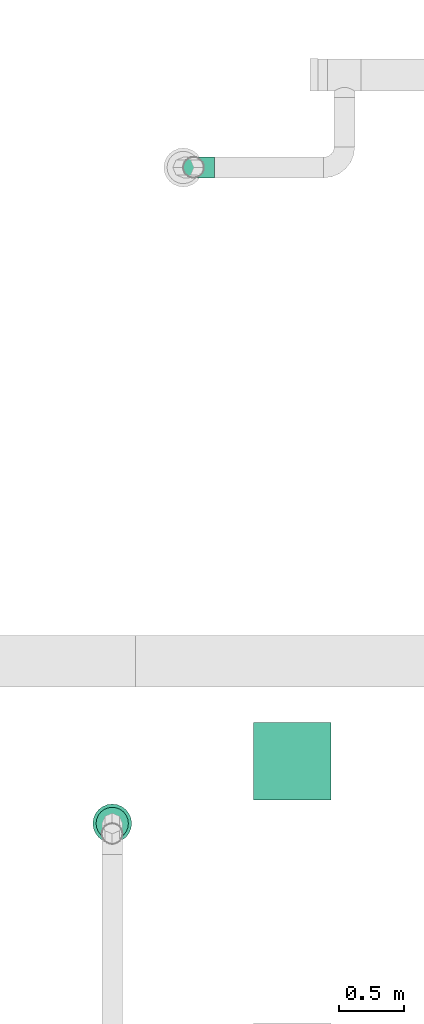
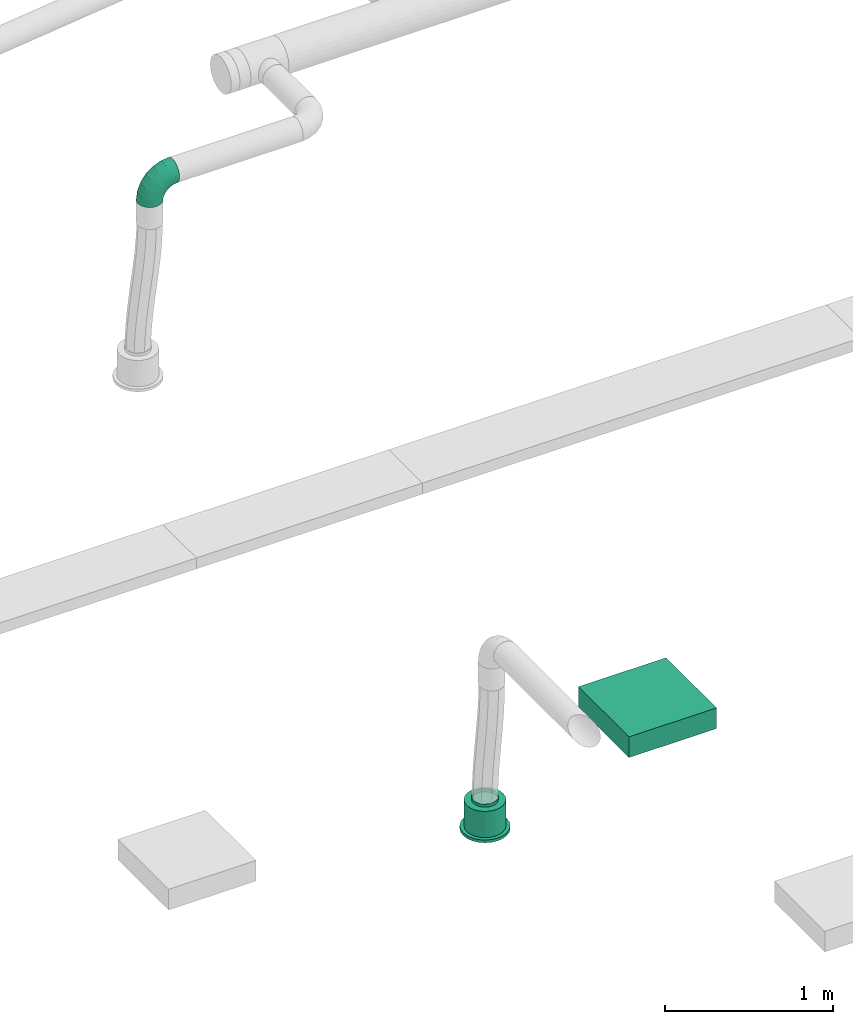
# One storey, part 31 of 374: 1 distribution element, 1 flow fitting, 1 flow terminal.
"""IFC2X3 building model written with IfcOpenShell, lengths in metres."""

import ifcopenshell
import ifcopenshell.guid

model = None  # the IFC model being written
_history = None  # IfcOwnerHistory: only IFC2X3 demands one
_inside = {}  # id of a spatial element -> (the spatial element, [elements in it])
_under = {}  # id of a project, library or spatial element -> (it, [spatial elements below it])
_declared = {}  # id of a project -> (the project, [libraries it declares])
_typed = {}  # id of a type object -> (the type object, [elements of that type])
_made_of = {}  # id of a material, layer set ... -> (it, [elements and type objects made of it])


def new_model(schema):
    """Start an empty IFC model of exactly this schema.

    Asked for "IFC4X3", IfcOpenShell would pick the latest addendum, in which some entities
    have other attributes; the version numbers below select the first issue.
    IFC2X3 requires an IfcOwnerHistory on every rooted entity: one is made here for all.
    """
    global model, _history
    if schema == "IFC4X3":
        model = ifcopenshell.file(schema_version=(4, 3, 0, 0))
    else:
        model = ifcopenshell.file(schema=schema)
    _inside.clear()
    _under.clear()
    _declared.clear()
    _typed.clear()
    _made_of.clear()
    _history = None
    if model.schema == "IFC2X3":
        org = make("IfcOrganization", Name="unknown")
        user = make(
            "IfcPersonAndOrganization",
            ThePerson=make("IfcPerson", FamilyName="unknown"),
            TheOrganization=org,
        )
        app = make(
            "IfcApplication",
            ApplicationDeveloper=org,
            Version="unknown",
            ApplicationFullName="unknown",
            ApplicationIdentifier="unknown",
        )
        _history = make(
            "IfcOwnerHistory",
            OwningUser=user,
            OwningApplication=app,
            ChangeAction="ADDED",
            CreationDate=0,
        )
    return model


def make(cls, **values):
    """One entity of the class cls with the attributes given. An attribute that is None is left unset."""
    return model.create_entity(
        cls, **{name: value for name, value in values.items() if value is not None}
    )


def rooted(cls, **values):
    """An entity with a GlobalId (a new one), such as an element, a storey or a relation."""
    return make(cls, GlobalId=ifcopenshell.guid.new(), OwnerHistory=_history, **values)


def si_unit(unit_type, name, prefix=None):
    """IfcSIUnit, for example si_unit("LENGTHUNIT", "METRE", prefix="MILLI")."""
    return make("IfcSIUnit", UnitType=unit_type, Prefix=prefix, Name=name)


def assignment(units):
    """IfcUnitAssignment: the units of a project."""
    return None if units is None else make("IfcUnitAssignment", Units=units)


def point(xyz):
    """IfcCartesianPoint."""
    return None if xyz is None else make("IfcCartesianPoint", Coordinates=xyz)


def direction(xyz):
    """IfcDirection."""
    return None if xyz is None else make("IfcDirection", DirectionRatios=xyz)


def frame(location, z_axis=None, x_axis=None):
    """IfcAxis2Placement3D, a coordinate frame: its origin and axes. An axis left out is left unset."""
    return make(
        "IfcAxis2Placement3D",
        Location=point(location),
        Axis=direction(z_axis),
        RefDirection=direction(x_axis),
    )


def frame_2d(location, x_axis=None):
    """IfcAxis2Placement2D, a coordinate frame in the plane: its origin and x axis."""
    return make(
        "IfcAxis2Placement2D", Location=point(location), RefDirection=direction(x_axis)
    )


def origin():
    """The frame at (0, 0, 0) with its axes left unset."""
    return frame((0.0, 0.0, 0.0))


def place(relative_to, where):
    """IfcLocalPlacement: puts the frame where relative to a parent placement (None: the world)."""
    return make(
        "IfcLocalPlacement", PlacementRelTo=relative_to, RelativePlacement=where
    )


def context(
    kind, dimensions, precision=None, world=None, true_north=None, identifier=None
):
    """IfcGeometricRepresentationContext, for example the 3D "Model" context."""
    return make(
        "IfcGeometricRepresentationContext",
        ContextIdentifier=identifier,
        ContextType=kind,
        CoordinateSpaceDimension=dimensions,
        Precision=precision,
        WorldCoordinateSystem=world,
        TrueNorth=true_north,
    )


def subcontext(parent, identifier, kind, view, scale=None):
    """IfcGeometricRepresentationSubContext, for example "Body" below "Model"."""
    return make(
        "IfcGeometricRepresentationSubContext",
        ContextIdentifier=identifier,
        ContextType=kind,
        ParentContext=parent,
        TargetScale=scale,
        TargetView=view,
    )


def project(units=None, contexts=None):
    """IfcProject with its units and contexts."""
    return rooted(
        "IfcProject",
        Name="project",
        RepresentationContexts=contexts,
        UnitsInContext=assignment(units),
    )


def spatial(cls, under=None, at=None, **own):
    """A site, building, storey or space (cls), placed at a placement, below another one or the project."""
    s = rooted(cls, ObjectPlacement=at, **own)
    if under is not None:
        _under.setdefault(under.id(), (under, []))[1].append(s)
    return s


def profile(cls, at=None, kind="AREA", **sizes):
    """A parametric profile (cls). Its sizes go by their IFC names, for example OverallWidth=200.0."""
    return make(cls, ProfileType=kind, Position=at, **sizes)


def rectangle(**sizes):
    """IfcRectangleProfileDef."""
    return profile("IfcRectangleProfileDef", **sizes)


def extrude(swept, where, along, depth):
    """IfcExtrudedAreaSolid: the profile swept, set in the frame where, extruded along a direction by depth."""
    return make(
        "IfcExtrudedAreaSolid",
        SweptArea=swept,
        Position=where,
        ExtrudedDirection=direction(along),
        Depth=depth,
    )


def faces_of(points, faces, orient=None, outer=None):
    """IfcFace entities. A face is a list of loops; a loop is a list of indices into points, from 0.

    orient and outer hold one flag for each loop. By default every Orientation is true, the
    first loop of a face is its IfcFaceOuterBound and the others are IfcFaceBound.
    """
    made = []
    for i, loops in enumerate(faces):
        bounds = []
        for j, loop in enumerate(loops):
            is_outer = j == 0 if outer is None else outer[i][j]
            bounds.append(
                make(
                    "IfcFaceOuterBound" if is_outer else "IfcFaceBound",
                    Bound=make("IfcPolyLoop", Polygon=[points[k] for k in loop]),
                    Orientation=True if orient is None else orient[i][j],
                )
            )
        made.append(make("IfcFace", Bounds=bounds))
    return made


def open_shell(faces, orient=None, outer=None):
    """The faces of one IfcOpenShell. surface_model builds it on its shared points."""
    return ("IfcOpenShell", faces, orient, outer)


def surface_model(cls, points, shells):
    """IfcFaceBasedSurfaceModel or IfcShellBasedSurfaceModel (cls): surfaces that need not close."""
    shared = [point(p) for p in points]
    made = [make(c, CfsFaces=faces_of(shared, fs, o, b)) for c, fs, o, b in shells]
    if cls == "IfcFaceBasedSurfaceModel":
        return make(cls, FbsmFaces=made)
    return make(cls, SbsmBoundary=made)


def shape(context_of_items, identifier, shape_type, items):
    """IfcShapeRepresentation: the items that make up one representation, for example the "Body"."""
    return make(
        "IfcShapeRepresentation",
        ContextOfItems=context_of_items,
        RepresentationIdentifier=identifier,
        RepresentationType=shape_type,
        Items=items,
    )


def source(mapping_origin, context_of_items, identifier, shape_type, items):
    """IfcRepresentationMap: a shape defined once, which mapped items show again and again."""
    return make(
        "IfcRepresentationMap",
        MappingOrigin=mapping_origin,
        MappedRepresentation=shape(context_of_items, identifier, shape_type, items),
    )


def transform(
    local_origin,
    x_axis=None,
    y_axis=None,
    z_axis=None,
    scale=None,
    scale2=None,
    scale3=None,
    uniform=True,
):
    """IfcCartesianTransformationOperator3D, or its non-uniform kind. x_axis, y_axis, z_axis: its Axis1, 2, 3."""
    if uniform:
        return make(
            "IfcCartesianTransformationOperator3D",
            Axis1=direction(x_axis),
            Axis2=direction(y_axis),
            LocalOrigin=point(local_origin),
            Scale=scale,
            Axis3=direction(z_axis),
        )
    return make(
        "IfcCartesianTransformationOperator3DnonUniform",
        Axis1=direction(x_axis),
        Axis2=direction(y_axis),
        LocalOrigin=point(local_origin),
        Scale=scale,
        Axis3=direction(z_axis),
        Scale2=scale2,
        Scale3=scale3,
    )


def mapped(mapping_source, mapping_target):
    """IfcMappedItem: shows the shape of a source again, moved by a transform."""
    return make(
        "IfcMappedItem", MappingSource=mapping_source, MappingTarget=mapping_target
    )


def made_of(thing, what):
    """Note that an element or type object is made of a material, layer set ...; save() writes the relation."""
    if what is not None:
        _made_of.setdefault(what.id(), (what, []))[1].append(thing)
    return thing


def element(
    cls,
    number,
    at=None,
    inside=None,
    cuts=None,
    type_object=None,
    material=None,
    context=None,
    identifier="Body",
    shape_type=None,
    held_by="IfcProductDefinitionShape",
    body=None,
    shapes=None,
    **own,
):
    """One element of the class cls, such as IfcWall. Its Tag is "e" and its number.

    at: its placement. inside: the storey or other place that contains it. cuts: it is an
    opening in that element (IfcRelVoidsElement). A single representation is given by context,
    identifier, shape_type and body (its items); several are given by shapes. held_by: the class
    of the entity that holds the representations. save() writes the other relations.
    """
    e = rooted(cls, Tag="e%d" % number, ObjectPlacement=at, **own)
    if body is not None:
        shapes = [shape(context, identifier, shape_type, body)]
    if shapes is not None:
        e.Representation = make(held_by, Representations=shapes)
    if inside is not None:
        _inside.setdefault(inside.id(), (inside, []))[1].append(e)
    if cuts is not None:
        rooted(
            "IfcRelVoidsElement", RelatingBuildingElement=cuts, RelatedOpeningElement=e
        )
    if type_object is not None:
        _typed.setdefault(type_object.id(), (type_object, []))[1].append(e)
    return made_of(e, material)


def aggregate(whole, parts):
    """IfcRelAggregates: a whole, such as a stair, and the parts it consists of."""
    return rooted("IfcRelAggregates", RelatingObject=whole, RelatedObjects=parts)


def save(model, path):
    """Write the relations noted so far, then the file.

    IfcRelAggregates (storeys below a building ...), IfcRelContainedInSpatialStructure (elements
    in a storey), IfcRelDefinesByType, IfcRelAssociatesMaterial and IfcRelDeclares: one each for
    every whole, place, type object, material and project.
    """
    for whole, parts in _under.values():
        aggregate(whole, parts)
    for where, things in _inside.values():
        rooted(
            "IfcRelContainedInSpatialStructure",
            RelatedElements=things,
            RelatingStructure=where,
        )
    for kind, things in _typed.values():
        rooted("IfcRelDefinesByType", RelatedObjects=things, RelatingType=kind)
    for what, things in _made_of.values():
        rooted("IfcRelAssociatesMaterial", RelatedObjects=things, RelatingMaterial=what)
    for by, libraries in _declared.values():
        rooted("IfcRelDeclares", RelatingContext=by, RelatedDefinitions=libraries)
    model.write(path)


model = new_model("IFC2X3")

# Units and contexts
model_context = context("Model", 3, precision=1e-05, world=origin(), true_north=direction((-0.4480736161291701, 0.8939966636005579)))
body_context = subcontext(model_context, "Body", "Model", "MODEL_VIEW")
ifc_project = project(units=[si_unit("LENGTHUNIT", "METRE"), si_unit("AREAUNIT", "SQUARE_METRE"), si_unit("VOLUMEUNIT", "CUBIC_METRE"), si_unit("PLANEANGLEUNIT", "RADIAN"), si_unit("THERMODYNAMICTEMPERATUREUNIT", "KELVIN"), si_unit("MASSUNIT", "GRAM", prefix="KILO"), si_unit("TIMEUNIT", "SECOND")], contexts=[model_context])

# Site, building, storey
site_placement = place(None, origin())
site = spatial("IfcSite", under=ifc_project, at=site_placement, Name="Site 1", CompositionType="ELEMENT")
building_placement = place(site_placement, origin())
building = spatial("IfcBuilding", under=site, at=building_placement, Name="Undefined", CompositionType="ELEMENT")
storey_placement = place(building_placement, origin())
storey = spatial("IfcBuildingStorey", under=building, at=storey_placement, Name="Rez de chauss\x8ee", CompositionType="ELEMENT", Elevation=0.0)

# Flow terminal
shared_shape_1 = source(origin(), body_context, "Body", "SurfaceModel", [
    surface_model("IfcFaceBasedSurfaceModel", [(0.0, 0.0, 0.0), (0.03915785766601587, 0.0, 0.0), (0.03915785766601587, 0.020000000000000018, 0.0), (3.552713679e-15, 0.020000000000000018, 0.0), (0.07698144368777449, 0.0, -0.010134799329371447), (0.07698144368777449, 0.020000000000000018, -0.010134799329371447), (0.11089314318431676, 0.0, -0.02971372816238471), (0.11089314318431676, 0.020000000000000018, -0.02971372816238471), (0.13858192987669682, 0.0, -0.05740251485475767), (0.13858192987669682, 0.020000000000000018, -0.05740251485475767), (0.15816085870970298, 0.0, -0.09131421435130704), (0.15816085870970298, 0.020000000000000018, -0.09131421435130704), (0.16829565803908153, 0.0, -0.12913780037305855), (0.16829565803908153, 0.020000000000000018, -0.12913780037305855), (0.16829565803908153, 0.0, -0.16829565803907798), (0.16829565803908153, 0.020000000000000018, -0.16829565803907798), (0.15816085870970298, 0.0, -0.20611924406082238), (0.15816085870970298, 0.020000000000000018, -0.20611924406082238), (0.13858192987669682, 0.0, -0.24003094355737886), (0.13858192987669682, 0.020000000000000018, -0.24003094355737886), (0.11089314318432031, 0.0, -0.2677197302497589), (0.11089314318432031, 0.020000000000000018, -0.2677197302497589), (0.07698144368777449, 0.0, -0.2872986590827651), (0.07698144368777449, 0.020000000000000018, -0.2872986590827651), (0.039157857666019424, 0.0, -0.29743345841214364), (0.039157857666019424, 0.020000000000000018, -0.29743345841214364), (3.552713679e-15, 0.0, -0.29743345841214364), (3.552713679e-15, 0.020000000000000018, -0.29743345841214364), (-0.03782358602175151, 0.0, -0.2872986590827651), (-0.03782358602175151, 0.020000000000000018, -0.2872986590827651), (-0.07173528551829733, 0.0, -0.2677197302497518), (-0.07173528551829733, 0.020000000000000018, -0.2677197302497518), (-0.0994240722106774, 0.0, -0.24003094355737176), (-0.0994240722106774, 0.020000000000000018, -0.24003094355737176), (-0.11900300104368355, 0.0, -0.2061192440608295), (-0.11900300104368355, 0.020000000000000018, -0.2061192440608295), (-0.1291378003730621, 0.0, -0.16829565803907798), (-0.1291378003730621, 0.020000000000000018, -0.16829565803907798), (-0.1291378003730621, 0.0, -0.12913780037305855), (-0.1291378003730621, 0.020000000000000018, -0.12913780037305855), (-0.11900300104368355, 0.0, -0.09131421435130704), (-0.11900300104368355, 0.020000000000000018, -0.09131421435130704), (-0.0994240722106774, 0.0, -0.05740251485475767), (-0.0994240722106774, 0.020000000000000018, -0.05740251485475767), (-0.07173528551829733, 0.0, -0.029713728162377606), (-0.07173528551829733, 0.020000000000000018, -0.029713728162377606), (-0.03782358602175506, 0.0, -0.010134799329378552), (-0.03782358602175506, 0.020000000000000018, -0.010134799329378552), (0.019578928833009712, 0.0, -0.14871672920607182), (0.019578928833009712, 0.020000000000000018, -0.14871672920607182), (0.003263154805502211, 0.020000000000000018, -0.02478612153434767), (0.035894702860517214, 0.020000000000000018, -0.02478612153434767), (0.035894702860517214, 0.20999999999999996, -0.02478612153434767), (0.003263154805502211, 0.20999999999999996, -0.02478612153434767), (0.06741435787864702, 0.020000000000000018, -0.033231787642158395), (0.06741435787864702, 0.20999999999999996, -0.033231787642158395), (0.0956741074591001, 0.020000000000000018, -0.04954756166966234), (0.0956741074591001, 0.20999999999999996, -0.04954756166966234), (0.11874809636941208, 0.020000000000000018, -0.07262155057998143), (0.11874809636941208, 0.20999999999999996, -0.07262155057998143), (0.13506387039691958, 0.020000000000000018, -0.10088130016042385), (0.13506387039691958, 0.20999999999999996, -0.10088130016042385), (0.1435095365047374, 0.020000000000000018, -0.13240095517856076), (0.1435095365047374, 0.20999999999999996, -0.13240095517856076), (0.1435095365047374, 0.020000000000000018, -0.16503250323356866), (0.1435095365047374, 0.20999999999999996, -0.16503250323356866), (0.13506387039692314, 0.020000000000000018, -0.19655215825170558), (0.13506387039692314, 0.20999999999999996, -0.19655215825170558), (0.11874809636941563, 0.020000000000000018, -0.2248119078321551), (0.11874809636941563, 0.20999999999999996, -0.2248119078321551), (0.09567410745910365, 0.020000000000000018, -0.24788589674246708), (0.09567410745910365, 0.20999999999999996, -0.24788589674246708), (0.06741435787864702, 0.020000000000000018, -0.26420167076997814), (0.06741435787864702, 0.20999999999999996, -0.26420167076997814), (0.035894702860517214, 0.020000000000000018, -0.27264733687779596), (0.035894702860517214, 0.20999999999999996, -0.27264733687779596), (0.0032631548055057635, 0.020000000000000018, -0.27264733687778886), (0.0032631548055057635, 0.20999999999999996, -0.27264733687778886), (-0.028256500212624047, 0.020000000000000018, -0.26420167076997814), (-0.028256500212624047, 0.20999999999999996, -0.26420167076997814), (-0.05651624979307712, 0.020000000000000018, -0.2478858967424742), (-0.05651624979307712, 0.20999999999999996, -0.2478858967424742), (-0.07959023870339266, 0.020000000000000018, -0.2248119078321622), (-0.07959023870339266, 0.20999999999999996, -0.2248119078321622), (-0.09590601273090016, 0.020000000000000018, -0.19655215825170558), (-0.09590601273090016, 0.20999999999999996, -0.19655215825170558), (-0.10435167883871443, 0.020000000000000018, -0.16503250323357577), (-0.10435167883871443, 0.20999999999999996, -0.16503250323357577), (-0.10435167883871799, 0.020000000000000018, -0.13240095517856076), (-0.10435167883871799, 0.20999999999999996, -0.13240095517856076), (-0.09590601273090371, 0.020000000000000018, -0.10088130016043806), (-0.09590601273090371, 0.20999999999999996, -0.10088130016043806), (-0.07959023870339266, 0.020000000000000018, -0.07262155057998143), (-0.07959023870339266, 0.20999999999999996, -0.07262155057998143), (-0.056516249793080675, 0.020000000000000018, -0.04954756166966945), (-0.056516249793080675, 0.20999999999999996, -0.04954756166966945), (-0.028256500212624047, 0.020000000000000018, -0.033231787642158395), (-0.028256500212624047, 0.20999999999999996, -0.033231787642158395), (0.019578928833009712, 0.20999999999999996, -0.14871672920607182), (0.009136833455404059, 0.20999999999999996, -0.06940114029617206), (0.030021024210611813, 0.20999999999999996, -0.06940114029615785), (0.030021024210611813, 0.22999999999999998, -0.06940114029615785), (0.009136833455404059, 0.22999999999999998, -0.06940114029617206), (0.05019360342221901, 0.20999999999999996, -0.07480636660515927), (0.05019360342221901, 0.22999999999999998, -0.07480636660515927), (0.06827984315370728, 0.20999999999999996, -0.08524846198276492), (0.06827984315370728, 0.22999999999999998, -0.08524846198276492), (0.0830471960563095, 0.20999999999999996, -0.10001581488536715), (0.0830471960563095, 0.22999999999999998, -0.10001581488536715), (0.0934892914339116, 0.20999999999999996, -0.11810205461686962), (0.0934892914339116, 0.22999999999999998, -0.11810205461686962), (0.09889451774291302, 0.20999999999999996, -0.13827463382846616), (0.09889451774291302, 0.22999999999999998, -0.13827463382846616), (0.09889451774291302, 0.20999999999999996, -0.15915882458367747), (0.09889451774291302, 0.22999999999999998, -0.15915882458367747), (0.09348929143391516, 0.20999999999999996, -0.179331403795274), (0.09348929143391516, 0.22999999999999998, -0.179331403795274), (0.0830471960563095, 0.20999999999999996, -0.19741764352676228), (0.0830471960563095, 0.22999999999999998, -0.19741764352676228), (0.06827984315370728, 0.20999999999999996, -0.2121849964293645), (0.06827984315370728, 0.22999999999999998, -0.2121849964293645), (0.05019360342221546, 0.20999999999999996, -0.22262709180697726), (0.05019360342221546, 0.22999999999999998, -0.22262709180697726), (0.030021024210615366, 0.20999999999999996, -0.22803231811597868), (0.030021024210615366, 0.22999999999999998, -0.22803231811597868), (0.009136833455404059, 0.20999999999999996, -0.22803231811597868), (0.009136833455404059, 0.22999999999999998, -0.22803231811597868), (-0.011035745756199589, 0.20999999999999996, -0.22262709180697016), (-0.011035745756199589, 0.22999999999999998, -0.22262709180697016), (-0.0291219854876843, 0.20999999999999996, -0.2121849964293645), (-0.0291219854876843, 0.22999999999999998, -0.2121849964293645), (-0.043889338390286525, 0.20999999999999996, -0.19741764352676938), (-0.043889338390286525, 0.22999999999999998, -0.19741764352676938), (-0.05433143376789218, 0.20999999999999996, -0.17933140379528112), (-0.05433143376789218, 0.22999999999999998, -0.17933140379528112), (-0.05973666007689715, 0.20999999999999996, -0.15915882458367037), (-0.05973666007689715, 0.22999999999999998, -0.15915882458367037), (-0.0597366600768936, 0.20999999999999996, -0.13827463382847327), (-0.0597366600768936, 0.22999999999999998, -0.13827463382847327), (-0.05433143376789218, 0.20999999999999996, -0.11810205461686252), (-0.05433143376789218, 0.22999999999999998, -0.11810205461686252), (-0.043889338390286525, 0.20999999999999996, -0.10001581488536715), (-0.043889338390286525, 0.22999999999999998, -0.10001581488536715), (-0.02912198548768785, 0.20999999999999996, -0.08524846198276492), (-0.02912198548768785, 0.22999999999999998, -0.08524846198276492), (-0.011035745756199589, 0.20999999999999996, -0.07480636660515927), (-0.011035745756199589, 0.22999999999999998, -0.07480636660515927)], [open_shell([[[0, 1, 2, 3]], [[1, 4, 5, 2]], [[4, 6, 7, 5]], [[6, 8, 9, 7]], [[8, 10, 11, 9]], [[10, 12, 13, 11]], [[12, 14, 15, 13]], [[14, 16, 17, 15]], [[16, 18, 19, 17]], [[18, 20, 21, 19]], [[20, 22, 23, 21]], [[22, 24, 25, 23]], [[24, 26, 27, 25]], [[26, 28, 29, 27]], [[28, 30, 31, 29]], [[30, 32, 33, 31]], [[32, 34, 35, 33]], [[34, 36, 37, 35]], [[36, 38, 39, 37]], [[38, 40, 41, 39]], [[40, 42, 43, 41]], [[42, 44, 45, 43]], [[44, 46, 47, 45]], [[46, 0, 3, 47]], [[48, 1, 0]], [[48, 4, 1]], [[48, 6, 4]], [[48, 8, 6]], [[48, 10, 8]], [[48, 12, 10]], [[48, 14, 12]], [[48, 16, 14]], [[48, 18, 16]], [[48, 20, 18]], [[48, 22, 20]], [[48, 24, 22]], [[48, 26, 24]], [[48, 28, 26]], [[48, 30, 28]], [[48, 32, 30]], [[48, 34, 32]], [[48, 36, 34]], [[48, 38, 36]], [[48, 40, 38]], [[48, 42, 40]], [[48, 44, 42]], [[48, 46, 44]], [[48, 0, 46]], [[49, 47, 3]], [[49, 45, 47]], [[49, 43, 45]], [[49, 41, 43]], [[49, 39, 41]], [[49, 37, 39]], [[49, 35, 37]], [[49, 33, 35]], [[49, 31, 33]], [[49, 29, 31]], [[49, 27, 29]], [[49, 25, 27]], [[49, 23, 25]], [[49, 21, 23]], [[49, 19, 21]], [[49, 17, 19]], [[49, 15, 17]], [[49, 13, 15]], [[49, 11, 13]], [[49, 9, 11]], [[49, 7, 9]], [[49, 5, 7]], [[49, 2, 5]], [[49, 3, 2]], [[50, 51, 52, 53]], [[51, 54, 55, 52]], [[54, 56, 57, 55]], [[56, 58, 59, 57]], [[58, 60, 61, 59]], [[60, 62, 63, 61]], [[62, 64, 65, 63]], [[64, 66, 67, 65]], [[66, 68, 69, 67]], [[68, 70, 71, 69]], [[70, 72, 73, 71]], [[72, 74, 75, 73]], [[74, 76, 77, 75]], [[76, 78, 79, 77]], [[78, 80, 81, 79]], [[80, 82, 83, 81]], [[82, 84, 85, 83]], [[84, 86, 87, 85]], [[86, 88, 89, 87]], [[88, 90, 91, 89]], [[90, 92, 93, 91]], [[92, 94, 95, 93]], [[94, 96, 97, 95]], [[96, 50, 53, 97]], [[49, 51, 50]], [[49, 54, 51]], [[49, 56, 54]], [[49, 58, 56]], [[49, 60, 58]], [[49, 62, 60]], [[49, 64, 62]], [[49, 66, 64]], [[49, 68, 66]], [[49, 70, 68]], [[49, 72, 70]], [[49, 74, 72]], [[49, 76, 74]], [[49, 78, 76]], [[49, 80, 78]], [[49, 82, 80]], [[49, 84, 82]], [[49, 86, 84]], [[49, 88, 86]], [[49, 90, 88]], [[49, 92, 90]], [[49, 94, 92]], [[49, 96, 94]], [[49, 50, 96]], [[98, 97, 53]], [[98, 95, 97]], [[98, 93, 95]], [[98, 91, 93]], [[98, 89, 91]], [[98, 87, 89]], [[98, 85, 87]], [[98, 83, 85]], [[98, 81, 83]], [[98, 79, 81]], [[98, 77, 79]], [[98, 75, 77]], [[98, 73, 75]], [[98, 71, 73]], [[98, 69, 71]], [[98, 67, 69]], [[98, 65, 67]], [[98, 63, 65]], [[98, 61, 63]], [[98, 59, 61]], [[98, 57, 59]], [[98, 55, 57]], [[98, 52, 55]], [[98, 53, 52]], [[99, 100, 101, 102]], [[100, 103, 104, 101]], [[103, 105, 106, 104]], [[105, 107, 108, 106]], [[107, 109, 110, 108]], [[109, 111, 112, 110]], [[111, 113, 114, 112]], [[113, 115, 116, 114]], [[115, 117, 118, 116]], [[117, 119, 120, 118]], [[119, 121, 122, 120]], [[121, 123, 124, 122]], [[123, 125, 126, 124]], [[125, 127, 128, 126]], [[127, 129, 130, 128]], [[129, 131, 132, 130]], [[131, 133, 134, 132]], [[133, 135, 136, 134]], [[135, 137, 138, 136]], [[137, 139, 140, 138]], [[139, 141, 142, 140]], [[141, 143, 144, 142]], [[143, 145, 146, 144]], [[145, 99, 102, 146]]])]),
])
flow_terminal_placement = place(storey_placement, origin())
element("IfcFlowTerminal", 1, at=flow_terminal_placement, inside=storey, Name="Air diffuseur - bouche", ObjectType="Air diffuseur - bouche", context=body_context, shape_type="MappedRepresentation", body=[
    mapped(shared_shape_1, transform((2.980053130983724, 16.80529701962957, 2.38), x_axis=(0.9914448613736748, 0.13052619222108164, 0.0), y_axis=(0.0, 0.0, 1.0), z_axis=(0.13052619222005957, -0.9914448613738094, 0.0))),
])

# Flow fitting
shared_shape_2 = source(origin(), body_context, "Body", "SurfaceModel", [
    surface_model("IfcFaceBasedSurfaceModel", [(0.06265257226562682, -8.8817842e-16, 0.0), (0.062296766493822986, 0.02088115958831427, -7.105427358e-15), (0.0003558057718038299, 0.020881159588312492, 7.105427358e-15), (0.0, 0.0, 0.0), (-0.059474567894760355, 0.022956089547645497, -0.015896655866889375), (-0.06051773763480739, 0.002098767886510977, -0.01607928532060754), (-0.11311701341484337, 0.02696454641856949, -0.04660663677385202), (-0.11477645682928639, 0.006153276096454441, -0.04714207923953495), (-0.15691588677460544, 0.0326333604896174, -0.09003710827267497), (-0.15907851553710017, 0.01188721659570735, -0.09107150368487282), (-0.18788636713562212, 0.03957621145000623, -0.14322835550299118), (-0.1904048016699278, 0.01890983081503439, -0.14487384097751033), (-0.2039178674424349, 0.04731995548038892, -0.20255548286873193), (-0.20662048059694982, 0.026742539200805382, -0.20488255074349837), (0.061253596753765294, 0.04103889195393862, -0.0053597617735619), (0.0013989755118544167, 0.04103889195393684, -0.005359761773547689), (-0.05641614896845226, 0.04304393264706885, -0.02072097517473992), (-0.10825177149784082, 0.04691737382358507, -0.050396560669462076), (-0.15057538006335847, 0.05239524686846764, -0.09236417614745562), (-0.18050269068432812, 0.05910424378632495, -0.14376379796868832), (-0.19599420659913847, 0.06658715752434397, -0.20109262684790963), (0.05959415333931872, 0.05909948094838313, -0.01571402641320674), (0.003058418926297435, 0.05909948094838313, -0.01571402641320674), (-0.05155090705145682, 0.06099334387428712, -0.030223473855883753), (-0.10051228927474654, 0.06465200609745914, -0.058253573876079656), (-0.1404890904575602, 0.0698261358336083, -0.09789412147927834), (-0.16875695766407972, 0.0761631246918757, -0.14644367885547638), (-0.18338948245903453, 0.08323111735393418, -0.2005936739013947), (0.057431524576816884, 0.07383212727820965, -0.030357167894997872), (0.005221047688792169, 0.07383212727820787, -0.03035716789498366), (-0.0452104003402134, 0.07558110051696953, -0.04375657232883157), (-0.09042599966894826, 0.07895985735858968, -0.06964223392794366), (-0.12734438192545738, 0.08373814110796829, -0.10625008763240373), (-0.15344962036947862, 0.08959031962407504, -0.15108536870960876), (-0.16696268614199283, 0.0961175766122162, -0.20109262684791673), (0.054913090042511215, 0.0842328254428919, -0.048291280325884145), (0.007739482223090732, 0.08423282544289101, -0.04829128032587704), (-0.037826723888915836, 0.08581307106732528, -0.06039801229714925), (-0.07868026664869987, 0.08886587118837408, -0.08378642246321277), (-0.11203704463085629, 0.09318318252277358, -0.11686262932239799), (-0.13562384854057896, 0.09847078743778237, -0.1573725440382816), (-0.14783327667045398, 0.10436834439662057, -0.20255548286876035), (0.05221047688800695, 0.0895927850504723, -0.06829418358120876), (0.010442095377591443, 0.08959278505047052, -0.06829418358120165), (-0.029903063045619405, 0.09099196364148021, -0.07901370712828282), (-0.06607554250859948, 0.09369496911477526, -0.0997222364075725), (-0.0956102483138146, 0.0975175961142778, -0.12900851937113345), (-0.11649443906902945, 0.10219933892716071, -0.16487674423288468), (-0.12730489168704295, 0.1074211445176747, -0.2048825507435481), (0.04950786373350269, 0.08954673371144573, -0.08900271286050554), (0.013144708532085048, 0.08954673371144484, -0.08900271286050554), (-0.02197940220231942, 0.09076484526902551, -0.09833502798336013), (-0.05347081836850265, 0.09311805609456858, -0.11636367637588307), (-0.0791834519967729, 0.09644599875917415, -0.14186003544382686), (-0.09736502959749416, 0.10052187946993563, -0.17308657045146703), (-0.10677650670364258, 0.1050679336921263, -0.20791524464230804), (0.04698942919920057, 0.08409780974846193, -0.10900561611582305), (0.015663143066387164, 0.08409780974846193, -0.10900561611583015), (-0.014595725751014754, 0.08514719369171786, -0.11704525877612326), (-0.0417250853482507, 0.0871744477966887, -0.13257665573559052), (-0.06387611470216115, 0.09004141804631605, -0.15454136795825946), (-0.07953925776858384, 0.09355272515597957, -0.1814425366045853), (-0.08764709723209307, 0.09746907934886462, -0.21144689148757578), (0.04482680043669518, 0.0736173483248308, -0.12693972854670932), (0.017825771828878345, 0.0736173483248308, -0.12693972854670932), (-0.008255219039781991, 0.07452184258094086, -0.13386932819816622), (-0.03163879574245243, 0.0762691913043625, -0.14725628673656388), (-0.050731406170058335, 0.07874031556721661, -0.1661883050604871), (-0.06423192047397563, 0.08176681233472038, -0.18937519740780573), (-0.07122030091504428, 0.08514243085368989, -0.21523681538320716), (0.04316735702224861, 0.058819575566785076, -0.14158287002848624), (0.019485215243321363, 0.058819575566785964, -0.14158287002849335), (-0.0033899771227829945, 0.05961289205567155, -0.14766070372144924), (-0.02389931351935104, 0.06114546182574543, -0.15940217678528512), (-0.04064511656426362, 0.06331284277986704, -0.17600712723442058), (-0.052486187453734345, 0.06596733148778, -0.19634395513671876), (-0.05861557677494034, 0.06892802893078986, -0.2190267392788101), (0.04212418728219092, 0.040712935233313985, -0.15193713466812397), (0.020528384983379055, 0.040712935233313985, -0.15193713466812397), (-0.0003315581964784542, 0.041436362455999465, -0.15747952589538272), (-0.019034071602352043, 0.04283391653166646, -0.16818660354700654), (-0.03430460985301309, 0.04481035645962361, -0.1833286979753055), (-0.04510251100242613, 0.047230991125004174, -0.20187390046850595), (-0.05069191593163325, 0.04993085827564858, -0.22255838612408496), (0.04176838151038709, 0.02053136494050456, -0.15729689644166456), (0.020884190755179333, 0.02053136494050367, -0.15729689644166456), (0.0007116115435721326, 0.021230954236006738, -0.16265665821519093), (-0.017374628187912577, 0.022582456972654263, -0.17301092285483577), (-0.03214198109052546, 0.024493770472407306, -0.1876540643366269), (-0.042584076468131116, 0.026834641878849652, -0.20558817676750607), (-0.04798930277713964, 0.02944554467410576, -0.22559108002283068), (0.04212418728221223, -0.000349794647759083, -0.15729689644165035), (0.020528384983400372, -0.000349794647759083, -0.15729689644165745), (-0.0003315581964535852, 0.00037363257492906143, -0.1628392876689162), (-0.019034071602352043, 0.0017711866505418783, -0.17354636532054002), (-0.03430460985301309, 0.0037476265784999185, -0.18868845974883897), (-0.04510251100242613, 0.00616826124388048, -0.20723366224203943), (-0.05069191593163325, 0.008868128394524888, -0.22791814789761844), (0.04316735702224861, -0.020507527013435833, -0.15193713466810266), (0.019485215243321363, -0.020507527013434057, -0.15193713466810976), (-0.0033899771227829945, -0.019714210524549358, -0.15801496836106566), (-0.02389931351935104, -0.01818164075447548, -0.16975644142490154), (-0.04064511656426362, -0.01601425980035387, -0.186361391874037), (-0.052486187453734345, -0.013359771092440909, -0.20669821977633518), (-0.05861557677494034, -0.010399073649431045, -0.22938100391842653), (0.04482680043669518, -0.03856811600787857, -0.1415828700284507), (0.017825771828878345, -0.03856811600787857, -0.1415828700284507), (-0.008255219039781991, -0.03766362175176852, -0.1485124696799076), (-0.03163879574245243, -0.03591627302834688, -0.16189942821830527), (-0.050731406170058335, -0.03344514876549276, -0.1808314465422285), (-0.06423192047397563, -0.030418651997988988, -0.20401833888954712), (-0.07122030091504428, -0.027043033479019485, -0.22987995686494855), (0.04698942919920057, -0.05330076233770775, -0.12693972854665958), (0.015663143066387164, -0.05330076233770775, -0.12693972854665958), (-0.014595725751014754, -0.05225137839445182, -0.1349793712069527), (-0.0417250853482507, -0.05022412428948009, -0.15051076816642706), (-0.06387611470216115, -0.047357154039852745, -0.172475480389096), (-0.07953925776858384, -0.043845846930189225, -0.19937664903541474), (-0.08764709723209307, -0.03992949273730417, -0.2293810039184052), (0.04950786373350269, -0.06370146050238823, -0.10900561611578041), (0.013144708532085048, -0.06370146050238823, -0.10900561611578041), (-0.02197940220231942, -0.06248334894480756, -0.11833793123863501), (-0.05347081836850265, -0.06013013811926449, -0.13636657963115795), (-0.0791834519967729, -0.05680219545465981, -0.16186293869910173), (-0.09736502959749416, -0.05272631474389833, -0.1930894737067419), (-0.10677650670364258, -0.04818026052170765, -0.2279181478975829), (0.05221047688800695, -0.06906142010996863, -0.08900271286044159), (0.010442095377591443, -0.06906142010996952, -0.08900271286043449), (-0.029903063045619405, -0.06766224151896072, -0.09972223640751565), (-0.06607554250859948, -0.06495923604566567, -0.12043076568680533), (-0.0956102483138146, -0.06113660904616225, -0.14971704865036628), (-0.11649443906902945, -0.05645486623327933, -0.1855852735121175), (-0.12730489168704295, -0.05123306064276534, -0.22559108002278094), (0.054913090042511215, -0.06901536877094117, -0.06829418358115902), (0.007739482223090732, -0.06901536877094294, -0.06829418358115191), (-0.037826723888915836, -0.06743512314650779, -0.08040091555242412), (-0.07868026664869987, -0.06438232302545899, -0.10378932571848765), (-0.11203704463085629, -0.06006501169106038, -0.13686553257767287), (-0.13562384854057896, -0.0547774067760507, -0.17737544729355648), (-0.14783327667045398, -0.04887984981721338, -0.22255838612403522), (0.057431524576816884, -0.06356644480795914, -0.0482912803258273), (0.005221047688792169, -0.06356644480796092, -0.04829128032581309), (-0.0452104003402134, -0.061817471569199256, -0.0616906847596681), (-0.09042599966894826, -0.05843871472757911, -0.0875763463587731), (-0.12734438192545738, -0.05366043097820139, -0.12418420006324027), (-0.15344962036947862, -0.04780825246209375, -0.1690194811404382), (-0.16696268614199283, -0.041280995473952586, -0.21902673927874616), (0.05959415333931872, -0.05308598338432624, -0.030357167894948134), (0.003058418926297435, -0.05308598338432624, -0.030357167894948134), (-0.05155090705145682, -0.05119212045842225, -0.04486661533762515), (-0.10051228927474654, -0.04753345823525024, -0.07289671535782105), (-0.1404890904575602, -0.04235932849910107, -0.11253726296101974), (-0.16875695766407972, -0.03602233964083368, -0.16108682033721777), (-0.18338948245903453, -0.02895434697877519, -0.2152368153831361), (0.061253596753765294, -0.03828821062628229, -0.015714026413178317), (0.0013989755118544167, -0.03828821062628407, -0.015714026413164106), (-0.05641614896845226, -0.03628316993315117, -0.031075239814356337), (-0.10825177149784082, -0.03240972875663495, -0.06075082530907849), (-0.15057538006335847, -0.026931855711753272, -0.10271844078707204), (-0.18050269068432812, -0.02022285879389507, -0.15411806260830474), (-0.19599420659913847, -0.012739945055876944, -0.21144689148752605), (0.062296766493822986, -0.020181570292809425, -0.005359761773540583), (0.0003558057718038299, -0.020181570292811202, -0.0053597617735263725), (-0.059474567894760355, -0.018106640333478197, -0.021256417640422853), (-0.11311701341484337, -0.014098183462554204, -0.051966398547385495), (-0.15691588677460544, -0.00842936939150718, -0.09539687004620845), (-0.18788636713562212, -0.0014865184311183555, -0.14858811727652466), (-0.2039178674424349, 0.006257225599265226, -0.2079152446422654)], [open_shell([[[0, 1, 2, 3]], [[3, 2, 4, 5]], [[5, 4, 6, 7]], [[7, 6, 8, 9]], [[9, 8, 10, 11]], [[11, 10, 12, 13]], [[1, 14, 15, 2]], [[2, 15, 16, 4]], [[4, 16, 17, 6]], [[6, 17, 18, 8]], [[8, 18, 19, 10]], [[10, 19, 20, 12]], [[14, 21, 22, 15]], [[15, 22, 23, 16]], [[16, 23, 24, 17]], [[17, 24, 25, 18]], [[18, 25, 26, 19]], [[19, 26, 27, 20]], [[21, 28, 29, 22]], [[22, 29, 30, 23]], [[23, 30, 31, 24]], [[24, 31, 32, 25]], [[25, 32, 33, 26]], [[26, 33, 34, 27]], [[28, 35, 36, 29]], [[29, 36, 37, 30]], [[30, 37, 38, 31]], [[31, 38, 39, 32]], [[32, 39, 40, 33]], [[33, 40, 41, 34]], [[35, 42, 43, 36]], [[36, 43, 44, 37]], [[37, 44, 45, 38]], [[38, 45, 46, 39]], [[39, 46, 47, 40]], [[40, 47, 48, 41]], [[42, 49, 50, 43]], [[43, 50, 51, 44]], [[44, 51, 52, 45]], [[45, 52, 53, 46]], [[46, 53, 54, 47]], [[47, 54, 55, 48]], [[49, 56, 57, 50]], [[50, 57, 58, 51]], [[51, 58, 59, 52]], [[52, 59, 60, 53]], [[53, 60, 61, 54]], [[54, 61, 62, 55]], [[56, 63, 64, 57]], [[57, 64, 65, 58]], [[58, 65, 66, 59]], [[59, 66, 67, 60]], [[60, 67, 68, 61]], [[61, 68, 69, 62]], [[63, 70, 71, 64]], [[64, 71, 72, 65]], [[65, 72, 73, 66]], [[66, 73, 74, 67]], [[67, 74, 75, 68]], [[68, 75, 76, 69]], [[70, 77, 78, 71]], [[71, 78, 79, 72]], [[72, 79, 80, 73]], [[73, 80, 81, 74]], [[74, 81, 82, 75]], [[75, 82, 83, 76]], [[77, 84, 85, 78]], [[78, 85, 86, 79]], [[79, 86, 87, 80]], [[80, 87, 88, 81]], [[81, 88, 89, 82]], [[82, 89, 90, 83]], [[84, 91, 92, 85]], [[85, 92, 93, 86]], [[86, 93, 94, 87]], [[87, 94, 95, 88]], [[88, 95, 96, 89]], [[89, 96, 97, 90]], [[91, 98, 99, 92]], [[92, 99, 100, 93]], [[93, 100, 101, 94]], [[94, 101, 102, 95]], [[95, 102, 103, 96]], [[96, 103, 104, 97]], [[98, 105, 106, 99]], [[99, 106, 107, 100]], [[100, 107, 108, 101]], [[101, 108, 109, 102]], [[102, 109, 110, 103]], [[103, 110, 111, 104]], [[105, 112, 113, 106]], [[106, 113, 114, 107]], [[107, 114, 115, 108]], [[108, 115, 116, 109]], [[109, 116, 117, 110]], [[110, 117, 118, 111]], [[112, 119, 120, 113]], [[113, 120, 121, 114]], [[114, 121, 122, 115]], [[115, 122, 123, 116]], [[116, 123, 124, 117]], [[117, 124, 125, 118]], [[119, 126, 127, 120]], [[120, 127, 128, 121]], [[121, 128, 129, 122]], [[122, 129, 130, 123]], [[123, 130, 131, 124]], [[124, 131, 132, 125]], [[126, 133, 134, 127]], [[127, 134, 135, 128]], [[128, 135, 136, 129]], [[129, 136, 137, 130]], [[130, 137, 138, 131]], [[131, 138, 139, 132]], [[133, 140, 141, 134]], [[134, 141, 142, 135]], [[135, 142, 143, 136]], [[136, 143, 144, 137]], [[137, 144, 145, 138]], [[138, 145, 146, 139]], [[140, 147, 148, 141]], [[141, 148, 149, 142]], [[142, 149, 150, 143]], [[143, 150, 151, 144]], [[144, 151, 152, 145]], [[145, 152, 153, 146]], [[147, 154, 155, 148]], [[148, 155, 156, 149]], [[149, 156, 157, 150]], [[150, 157, 158, 151]], [[151, 158, 159, 152]], [[152, 159, 160, 153]], [[154, 161, 162, 155]], [[155, 162, 163, 156]], [[156, 163, 164, 157]], [[157, 164, 165, 158]], [[158, 165, 166, 159]], [[159, 166, 167, 160]], [[161, 0, 3, 162]], [[162, 3, 5, 163]], [[163, 5, 7, 164]], [[164, 7, 9, 165]], [[165, 9, 11, 166]], [[166, 11, 13, 167]]])]),
])
flow_fitting_placement = place(storey_placement, origin())
element("IfcFlowFitting", 2, at=flow_fitting_placement, inside=storey, Name="Coude", ObjectType="Coude", context=body_context, shape_type="MappedRepresentation", body=[
    mapped(shared_shape_2, transform((3.537434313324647, 22.029236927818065, 3.7021165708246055), x_axis=(-0.13052619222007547, 0.0, -0.9914448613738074), y_axis=(0.12832103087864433, -0.9915887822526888, -0.016893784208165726), z_axis=(-0.9831056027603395, -0.12942830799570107, 0.1294283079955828))),
])

# Distribution element
distribution_element_placement = place(storey_placement, origin())
element("IfcDistributionElement", 3, at=distribution_element_placement, inside=storey, Name="Decken-Rechteckleuchte mit Rahmen AP", ObjectType="Decken-Rechteckleuchte mit Rahmen AP", context=body_context, shape_type="SweptSolid", body=[
    extrude(rectangle(XDim=0.6000000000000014, YDim=0.6000000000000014, at=frame_2d((3.552713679e-15, 0.0), x_axis=(0.0, 1.0))), frame((4.373387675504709, 17.437499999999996, 2.5500000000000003), z_axis=(0.0, 0.0, -1.0), x_axis=(1.0, 0.0, 0.0)), (0.0, 0.0, 1.0), 0.15),
])

save(model, "model.ifc")
